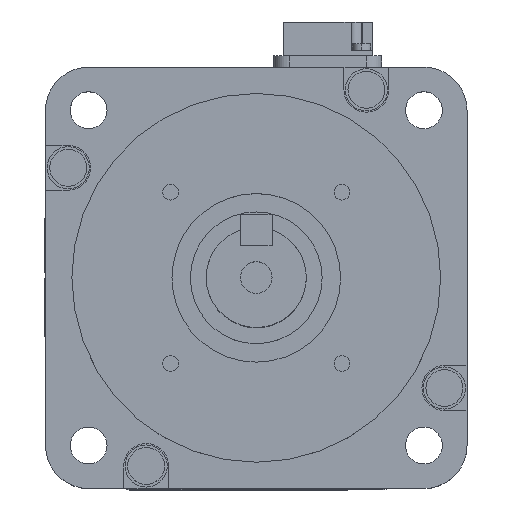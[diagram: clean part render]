
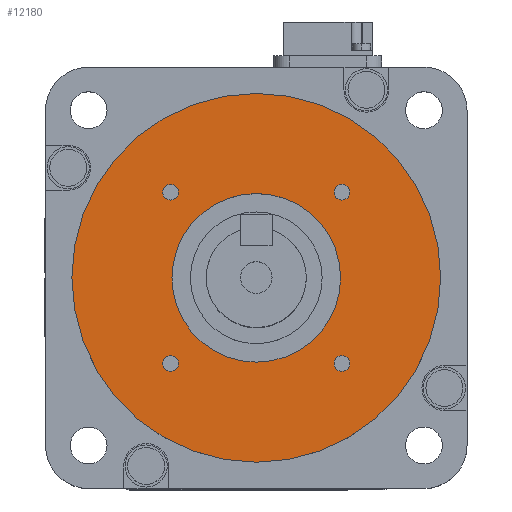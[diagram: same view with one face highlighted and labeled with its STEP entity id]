
A CAD part, top view. The second image highlights one B-rep face of the part: STEP entity #12180.
In plain terms, the highlighted planar face has unit normal (0, 0, 1).
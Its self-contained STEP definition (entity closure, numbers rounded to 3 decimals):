
#1512 = VERTEX_POINT ( 'NONE', #5874 ) ;
#1514 = EDGE_CURVE ( 'NONE', #1512, #1521, #5872, .T. ) ;
#1521 = VERTEX_POINT ( 'NONE', #5915 ) ;
#1581 = VERTEX_POINT ( 'NONE', #5984 ) ;
#1586 = VERTEX_POINT ( 'NONE', #6045 ) ;
#1601 = VERTEX_POINT ( 'NONE', #6017 ) ;
#1610 = EDGE_CURVE ( 'NONE', #1601, #1586, #6054, .T. ) ;
#1616 = EDGE_CURVE ( 'NONE', #1629, #1630, #6101, .T. ) ;
#1629 = VERTEX_POINT ( 'NONE', #6140 ) ;
#1630 = VERTEX_POINT ( 'NONE', #6135 ) ;
#1640 = EDGE_CURVE ( 'NONE', #1581, #1641, #6116, .T. ) ;
#1641 = VERTEX_POINT ( 'NONE', #6169 ) ;
#1916 = VERTEX_POINT ( 'NONE', #6663 ) ;
#1918 = VERTEX_POINT ( 'NONE', #6656 ) ;
#1936 = EDGE_CURVE ( 'NONE', #1916, #1918, #6686, .T. ) ;
#1942 = VERTEX_POINT ( 'NONE', #6740 ) ;
#1996 = EDGE_CURVE ( 'NONE', #1942, #2001, #6826, .T. ) ;
#2001 = VERTEX_POINT ( 'NONE', #6812 ) ;
#5868 = DIRECTION ( 'NONE',  ( 0., -1., 0. ) ) ;
#5869 = DIRECTION ( 'NONE',  ( 0., 0., 1. ) ) ;
#5870 = CARTESIAN_POINT ( 'NONE',  ( 16.263, -16.263, 3. ) ) ;
#5871 = AXIS2_PLACEMENT_3D ( 'NONE', #5870, #5869, #5868 ) ;
#5872 = CIRCLE ( 'NONE', #5871, 1.5 ) ;
#5874 = CARTESIAN_POINT ( 'NONE',  ( 14.763, -16.263, 3. ) ) ;
#5915 = CARTESIAN_POINT ( 'NONE',  ( 17.763, -16.263, 3. ) ) ;
#5984 = CARTESIAN_POINT ( 'NONE',  ( -17.763, -16.263, 3. ) ) ;
#6017 = CARTESIAN_POINT ( 'NONE',  ( -17.763, 16.263, 3. ) ) ;
#6045 = CARTESIAN_POINT ( 'NONE',  ( -14.763, 16.263, 3. ) ) ;
#6050 = DIRECTION ( 'NONE',  ( 0., 1., 0. ) ) ;
#6051 = DIRECTION ( 'NONE',  ( 0., 0., 1. ) ) ;
#6052 = CARTESIAN_POINT ( 'NONE',  ( -16.263, 16.263, 3. ) ) ;
#6053 = AXIS2_PLACEMENT_3D ( 'NONE', #6052, #6051, #6050 ) ;
#6054 = CIRCLE ( 'NONE', #6053, 1.5 ) ;
#6097 = DIRECTION ( 'NONE',  ( 1., 0., 0. ) ) ;
#6098 = DIRECTION ( 'NONE',  ( 0., 0., 1. ) ) ;
#6099 = CARTESIAN_POINT ( 'NONE',  ( 16.263, 16.263, 3. ) ) ;
#6100 = AXIS2_PLACEMENT_3D ( 'NONE', #6099, #6098, #6097 ) ;
#6101 = CIRCLE ( 'NONE', #6100, 1.5 ) ;
#6109 = DIRECTION ( 'NONE',  ( 0., 0., 1. ) ) ;
#6110 = CARTESIAN_POINT ( 'NONE',  ( -16.263, -16.263, 3. ) ) ;
#6111 = AXIS2_PLACEMENT_3D ( 'NONE', #6110, #6109, #6170 ) ;
#6116 = CIRCLE ( 'NONE', #6111, 1.5 ) ;
#6135 = CARTESIAN_POINT ( 'NONE',  ( 17.763, 16.263, 3. ) ) ;
#6140 = CARTESIAN_POINT ( 'NONE',  ( 14.763, 16.263, 3. ) ) ;
#6169 = CARTESIAN_POINT ( 'NONE',  ( -14.763, -16.263, 3. ) ) ;
#6170 = DIRECTION ( 'NONE',  ( -1., 0., 0. ) ) ;
#6171 = DIRECTION ( 'NONE',  ( 0., 0., -1. ) ) ;
#6434 = DIRECTION ( 'NONE',  ( -1., 0., 0. ) ) ;
#6656 = CARTESIAN_POINT ( 'NONE',  ( -16., 0., 3. ) ) ;
#6663 = CARTESIAN_POINT ( 'NONE',  ( 16., 0., 3. ) ) ;
#6684 = CARTESIAN_POINT ( 'NONE',  ( 0., 0., 3. ) ) ;
#6685 = AXIS2_PLACEMENT_3D ( 'NONE', #6684, #6171, #6434 ) ;
#6686 = CIRCLE ( 'NONE', #6685, 16. ) ;
#6740 = CARTESIAN_POINT ( 'NONE',  ( -35., 0., 3. ) ) ;
#6812 = CARTESIAN_POINT ( 'NONE',  ( 35., 0., 3. ) ) ;
#6822 = DIRECTION ( 'NONE',  ( -1., 0., 0. ) ) ;
#6823 = DIRECTION ( 'NONE',  ( 0., 0., -1. ) ) ;
#6824 = CARTESIAN_POINT ( 'NONE',  ( 0., 0., 3. ) ) ;
#6825 = AXIS2_PLACEMENT_3D ( 'NONE', #6824, #6823, #6822 ) ;
#6826 = CIRCLE ( 'NONE', #6825, 35. ) ;
#10306 = DIRECTION ( 'NONE',  ( -1., 0., 0. ) ) ;
#10307 = DIRECTION ( 'NONE',  ( 0., 0., 1. ) ) ;
#10308 = CARTESIAN_POINT ( 'NONE',  ( -16.263, -16.263, 3. ) ) ;
#10309 = AXIS2_PLACEMENT_3D ( 'NONE', #10308, #10307, #10306 ) ;
#10310 = CIRCLE ( 'NONE', #10309, 1.5 ) ;
#10312 = DIRECTION ( 'NONE',  ( 0., -1., 0. ) ) ;
#10313 = DIRECTION ( 'NONE',  ( 0., 0., 1. ) ) ;
#10314 = CARTESIAN_POINT ( 'NONE',  ( 16.263, -16.263, 3. ) ) ;
#10315 = AXIS2_PLACEMENT_3D ( 'NONE', #10314, #10313, #10312 ) ;
#10316 = CIRCLE ( 'NONE', #10315, 1.5 ) ;
#10317 = DIRECTION ( 'NONE',  ( 1., 0., 0. ) ) ;
#10318 = DIRECTION ( 'NONE',  ( 0., 0., 1. ) ) ;
#10319 = CARTESIAN_POINT ( 'NONE',  ( 0., 35., 3. ) ) ;
#10320 = AXIS2_PLACEMENT_3D ( 'NONE', #10319, #10318, #10317 ) ;
#10321 = PLANE ( 'NONE',  #10320 ) ;
#10322 = FACE_OUTER_BOUND ( 'NONE', #12174, .T. ) ;
#10323 = FACE_BOUND ( 'NONE', #12311, .T. ) ;
#10324 = FACE_BOUND ( 'NONE', #12303, .T. ) ;
#10325 = FACE_BOUND ( 'NONE', #12201, .T. ) ;
#10326 = FACE_BOUND ( 'NONE', #12191, .T. ) ;
#10327 = FACE_BOUND ( 'NONE', #12183, .T. ) ;
#10328 = DIRECTION ( 'NONE',  ( -1., 0., 0. ) ) ;
#10329 = DIRECTION ( 'NONE',  ( 0., 0., -1. ) ) ;
#10330 = AXIS2_PLACEMENT_3D ( 'NONE', #10335, #10329, #10328 ) ;
#10331 = CIRCLE ( 'NONE', #10330, 16. ) ;
#10335 = CARTESIAN_POINT ( 'NONE',  ( 0., 0., 3. ) ) ;
#10362 = DIRECTION ( 'NONE',  ( 0., 1., 0. ) ) ;
#10363 = DIRECTION ( 'NONE',  ( 0., 0., 1. ) ) ;
#10364 = CARTESIAN_POINT ( 'NONE',  ( -16.263, 16.263, 3. ) ) ;
#10365 = AXIS2_PLACEMENT_3D ( 'NONE', #10364, #10363, #10362 ) ;
#10366 = CIRCLE ( 'NONE', #10365, 1.5 ) ;
#10404 = CIRCLE ( 'NONE', #10467, 1.5 ) ;
#10423 = DIRECTION ( 'NONE',  ( -1., 0., 0. ) ) ;
#10424 = DIRECTION ( 'NONE',  ( 0., 0., -1. ) ) ;
#10425 = CARTESIAN_POINT ( 'NONE',  ( 0., 0., 3. ) ) ;
#10426 = AXIS2_PLACEMENT_3D ( 'NONE', #10425, #10424, #10423 ) ;
#10431 = CIRCLE ( 'NONE', #10426, 35. ) ;
#10464 = DIRECTION ( 'NONE',  ( 1., 0., 0. ) ) ;
#10465 = DIRECTION ( 'NONE',  ( 0., 0., 1. ) ) ;
#10466 = CARTESIAN_POINT ( 'NONE',  ( 16.263, 16.263, 3. ) ) ;
#10467 = AXIS2_PLACEMENT_3D ( 'NONE', #10466, #10465, #10464 ) ;
#12169 = EDGE_CURVE ( 'NONE', #1918, #1916, #10331, .T. ) ;
#12171 = ORIENTED_EDGE ( 'NONE', *, *, #1936, .T. ) ;
#12174 = EDGE_LOOP ( 'NONE', ( #12175, #12176 ) ) ;
#12175 = ORIENTED_EDGE ( 'NONE', *, *, #1996, .F. ) ;
#12176 = ORIENTED_EDGE ( 'NONE', *, *, #12275, .F. ) ;
#12180 = ADVANCED_FACE ( 'NONE', ( #10327, #10326, #10325, #10324, #10323, #10322 ), #10321, .T. ) ;
#12183 = EDGE_LOOP ( 'NONE', ( #12185, #12190 ) ) ;
#12185 = ORIENTED_EDGE ( 'NONE', *, *, #12187, .F. ) ;
#12187 = EDGE_CURVE ( 'NONE', #1521, #1512, #10316, .T. ) ;
#12190 = ORIENTED_EDGE ( 'NONE', *, *, #1514, .F. ) ;
#12191 = EDGE_LOOP ( 'NONE', ( #12192, #12196 ) ) ;
#12192 = ORIENTED_EDGE ( 'NONE', *, *, #12193, .F. ) ;
#12193 = EDGE_CURVE ( 'NONE', #1641, #1581, #10310, .T. ) ;
#12196 = ORIENTED_EDGE ( 'NONE', *, *, #1640, .F. ) ;
#12201 = EDGE_LOOP ( 'NONE', ( #12202, #12301 ) ) ;
#12202 = ORIENTED_EDGE ( 'NONE', *, *, #12203, .F. ) ;
#12203 = EDGE_CURVE ( 'NONE', #1586, #1601, #10366, .T. ) ;
#12275 = EDGE_CURVE ( 'NONE', #2001, #1942, #10431, .T. ) ;
#12301 = ORIENTED_EDGE ( 'NONE', *, *, #1610, .F. ) ;
#12303 = EDGE_LOOP ( 'NONE', ( #12305, #12310 ) ) ;
#12305 = ORIENTED_EDGE ( 'NONE', *, *, #12307, .F. ) ;
#12307 = EDGE_CURVE ( 'NONE', #1630, #1629, #10404, .T. ) ;
#12310 = ORIENTED_EDGE ( 'NONE', *, *, #1616, .F. ) ;
#12311 = EDGE_LOOP ( 'NONE', ( #12313, #12171 ) ) ;
#12313 = ORIENTED_EDGE ( 'NONE', *, *, #12169, .T. ) ;
